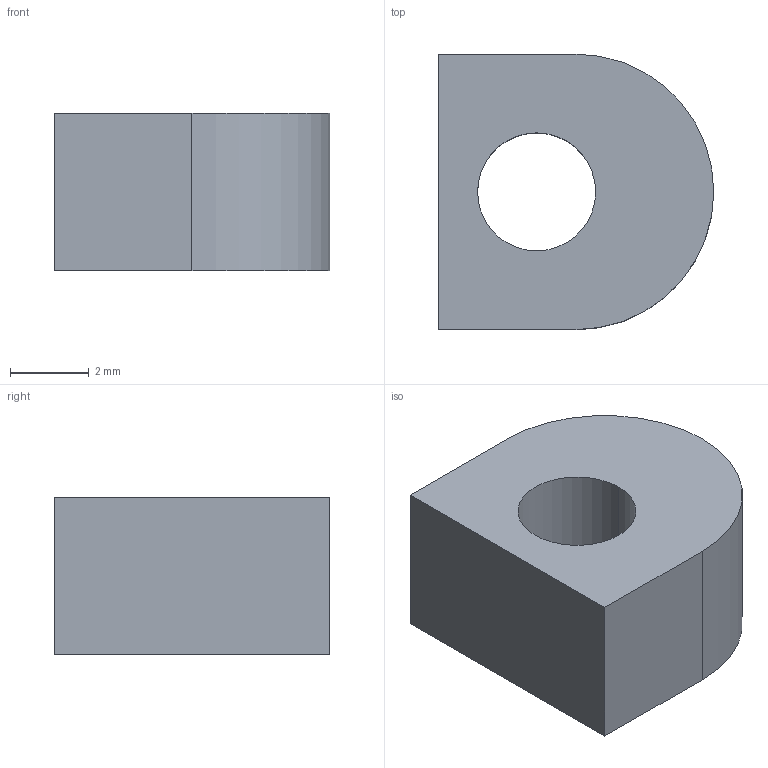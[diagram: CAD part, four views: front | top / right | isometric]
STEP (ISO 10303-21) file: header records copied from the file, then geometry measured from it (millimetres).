
FILE_DESCRIPTION(('STEP AP214'),'1');
FILE_NAME('tmp0.step','2025-04-26T13:21:22',(' '),(' '),'Spatial InterOp 3D',' ',' ');
FILE_SCHEMA(('AUTOMOTIVE_DESIGN { 1 0 10303 214 1 1 1 1 }'));
Length unit declared in the file: millimetre
Products named in the file (1): 1
Bounding box: 7 x 7 x 4 mm (x, y, z)
Volume: 146.7 mm3; surface area: 211 mm2
Topology: 1 solids, 1 shells, 9 faces, 21 edges, 14 vertices
Faces by surface type: plane 5, cylinder 4
Entity records: 292 total; most frequent: DIRECTION 49, CARTESIAN_POINT 45, ORIENTED_EDGE 42, EDGE_CURVE 21, AXIS2_PLACEMENT_3D 18, VERTEX_POINT 14, LINE 13, VECTOR 13
